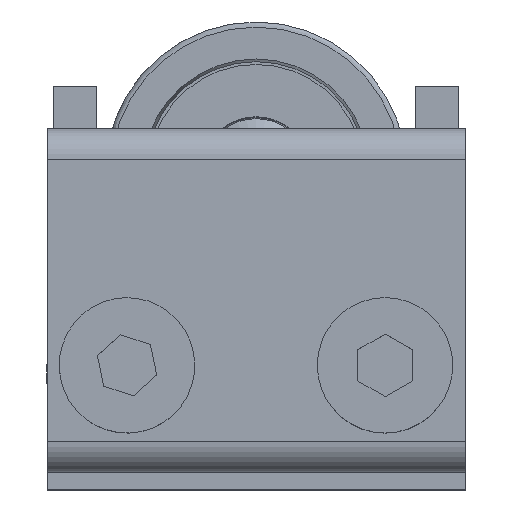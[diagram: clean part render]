
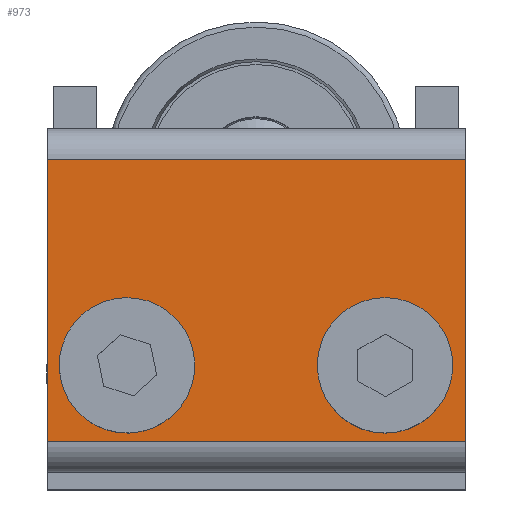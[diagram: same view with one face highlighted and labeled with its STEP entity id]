
A CAD part, top view. The second image highlights one B-rep face of the part: STEP entity #973.
In plain terms, the highlighted planar face has unit normal (0, 0, 1) as drawn and (0, 0, -1) by its records, which use the part's own axes.
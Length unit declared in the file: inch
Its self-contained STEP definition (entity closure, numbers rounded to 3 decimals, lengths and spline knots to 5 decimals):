
#666=DIRECTION('',(0.,-1.,0.));
#667=VECTOR('',#666,0.82);
#668=CARTESIAN_POINT('',(-0.6075,0.41,-0.18));
#669=LINE('',#668,#667);
#692=DIRECTION('',(0.,-1.,0.));
#693=VECTOR('',#692,0.82);
#694=CARTESIAN_POINT('',(0.6075,0.41,-0.18));
#695=LINE('',#694,#693);
#696=CARTESIAN_POINT('',(0.375,-0.188,-0.18));
#697=DIRECTION('',(0.,0.,1.));
#698=DIRECTION('',(1.,0.,0.));
#699=AXIS2_PLACEMENT_3D('',#696,#697,#698);
#701=CARTESIAN_POINT('',(0.375,-0.188,-0.18));
#702=DIRECTION('',(0.,0.,1.));
#703=DIRECTION('',(-1.,0.,0.));
#704=AXIS2_PLACEMENT_3D('',#701,#702,#703);
#706=CARTESIAN_POINT('',(-0.375,-0.188,-0.18));
#707=DIRECTION('',(0.,0.,1.));
#708=DIRECTION('',(1.,0.,0.));
#709=AXIS2_PLACEMENT_3D('',#706,#707,#708);
#711=CARTESIAN_POINT('',(-0.375,-0.188,-0.18));
#712=DIRECTION('',(0.,0.,1.));
#713=DIRECTION('',(-1.,0.,0.));
#714=AXIS2_PLACEMENT_3D('',#711,#712,#713);
#720=DIRECTION('',(-1.,0.,0.));
#721=VECTOR('',#720,1.215);
#722=CARTESIAN_POINT('',(0.6075,0.41,-0.18));
#723=LINE('',#722,#721);
#744=DIRECTION('',(1.,0.,0.));
#745=VECTOR('',#744,1.215);
#746=CARTESIAN_POINT('',(-0.6075,-0.41,-0.18));
#747=LINE('',#746,#745);
#809=CARTESIAN_POINT('',(-0.5,-0.188,-0.18));
#811=VERTEX_POINT('',#809);
#812=CARTESIAN_POINT('',(0.25,-0.188,-0.18));
#813=CARTESIAN_POINT('',(0.5,-0.188,-0.18));
#814=VERTEX_POINT('',#812);
#815=VERTEX_POINT('',#813);
#825=CARTESIAN_POINT('',(-0.6075,0.41,-0.18));
#827=VERTEX_POINT('',#825);
#828=CARTESIAN_POINT('',(-0.6075,-0.41,-0.18));
#829=CARTESIAN_POINT('',(0.6075,-0.41,-0.18));
#830=VERTEX_POINT('',#828);
#831=VERTEX_POINT('',#829);
#832=CARTESIAN_POINT('',(-0.25,-0.188,-0.18));
#833=VERTEX_POINT('',#832);
#854=CARTESIAN_POINT('',(0.6075,0.41,-0.18));
#855=VERTEX_POINT('',#854);
#948=CARTESIAN_POINT('',(0.6075,0.5,-0.18));
#949=DIRECTION('',(0.,0.,1.));
#950=DIRECTION('',(0.,-1.,0.));
#951=AXIS2_PLACEMENT_3D('',#948,#949,#950);
#952=PLANE('',#951);
#953=ORIENTED_EDGE('',*,*,#900,.F.);
#955=ORIENTED_EDGE('',*,*,#954,.T.);
#956=ORIENTED_EDGE('',*,*,#927,.T.);
#958=ORIENTED_EDGE('',*,*,#957,.T.);
#959=EDGE_LOOP('',(#953,#955,#956,#958));
#960=FACE_OUTER_BOUND('',#959,.F.);
#962=ORIENTED_EDGE('',*,*,#961,.F.);
#964=ORIENTED_EDGE('',*,*,#963,.F.);
#965=EDGE_LOOP('',(#962,#964));
#966=FACE_BOUND('',#965,.F.);
#968=ORIENTED_EDGE('',*,*,#967,.F.);
#970=ORIENTED_EDGE('',*,*,#969,.F.);
#971=EDGE_LOOP('',(#968,#970));
#972=FACE_BOUND('',#971,.F.);
#700=CIRCLE('',#699,0.125);
#705=CIRCLE('',#704,0.125);
#710=CIRCLE('',#709,0.125);
#715=CIRCLE('',#714,0.125);
#900=EDGE_CURVE('',#855,#831,#695,.T.);
#927=EDGE_CURVE('',#827,#830,#669,.T.);
#954=EDGE_CURVE('',#855,#827,#723,.T.);
#957=EDGE_CURVE('',#830,#831,#747,.T.);
#961=EDGE_CURVE('',#815,#814,#700,.T.);
#963=EDGE_CURVE('',#814,#815,#705,.T.);
#967=EDGE_CURVE('',#833,#811,#710,.T.);
#969=EDGE_CURVE('',#811,#833,#715,.T.);
#973=ADVANCED_FACE('',(#960,#966,#972),#952,.F.);
